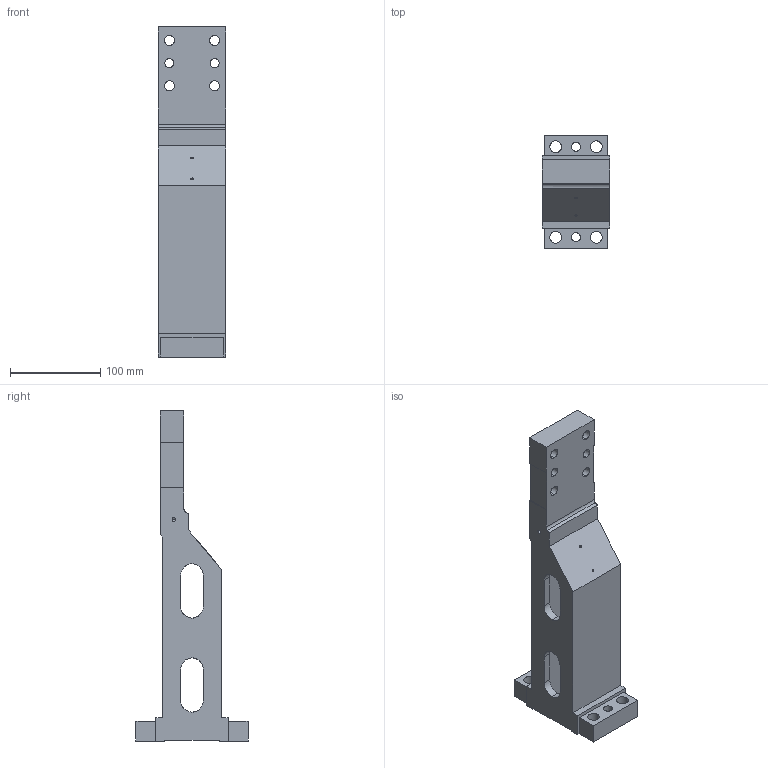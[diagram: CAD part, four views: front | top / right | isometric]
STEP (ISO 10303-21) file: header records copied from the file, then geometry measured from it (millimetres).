
FILE_DESCRIPTION (( 'STEP AP203' ), '1' );
FILE_NAME ('Clampact_KLP-EU-632-H300.STEP', '2023-07-16T13:22:56', ( '' ), ( '' ), 'SwSTEP 2.0', 'SolidWorks 2018', '' );
FILE_SCHEMA (( 'CONFIG_CONTROL_DESIGN' ));
Length unit declared in the file: millimetre
Products named in the file (1): Clampact_KLP-EU-632-H300
Bounding box: 75 x 124 x 365 mm (x, y, z)
Volume: 774743.4 mm3; surface area: 156234.3 mm2
Topology: 1 solids, 1 shells, 412 faces, 1169 edges, 787 vertices
Faces by surface type: plane 202, bspline 156, cylinder 50, cone 4
Entity records: 22224 total; most frequent: CARTESIAN_POINT 12567, ORIENTED_EDGE 2330, DIRECTION 1324, EDGE_CURVE 1165, VERTEX_POINT 787, LINE 718, VECTOR 718, EDGE_LOOP 480
